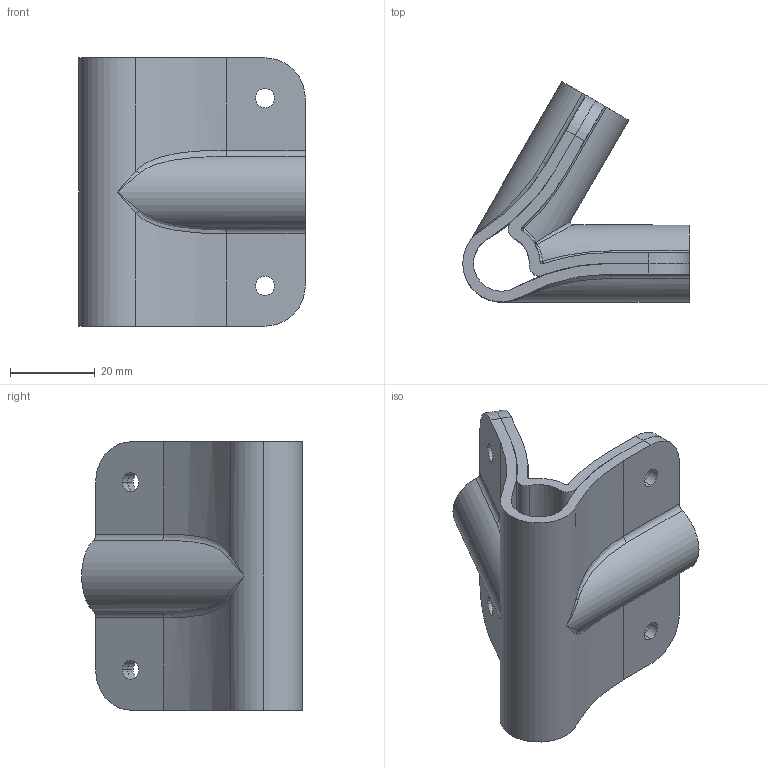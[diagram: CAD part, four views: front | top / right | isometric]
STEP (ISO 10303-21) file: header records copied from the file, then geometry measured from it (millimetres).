
FILE_DESCRIPTION (( 'STEP AP214' ), '1' );
FILE_NAME ('DRP-002-0104-00.STEP', '2010-08-12T17:44:12', ( '' ), ( '' ), 'SwSTEP 2.0', 'SolidWorks 2010', '' );
FILE_SCHEMA (( 'AUTOMOTIVE_DESIGN' ));
Length unit declared in the file: inch
Products named in the file (1): DRP-002-0104-00
Bounding box: 53.59 x 52.21 x 63.5 mm (x, y, z)
Volume: 31542.3 mm3; surface area: 26590.9 mm2
Topology: 2 solids, 2 shells, 178 faces, 467 edges, 284 vertices
Faces by surface type: cylinder 87, bspline 48, plane 26, sphere 14, cone 3
Entity records: 9852 total; most frequent: CARTESIAN_POINT 3441, ORIENTED_EDGE 910, DIRECTION 797, EDGE_CURVE 455, AXIS2_PLACEMENT_3D 326, VERTEX_POINT 282, CIRCLE 195, EDGE_LOOP 195
